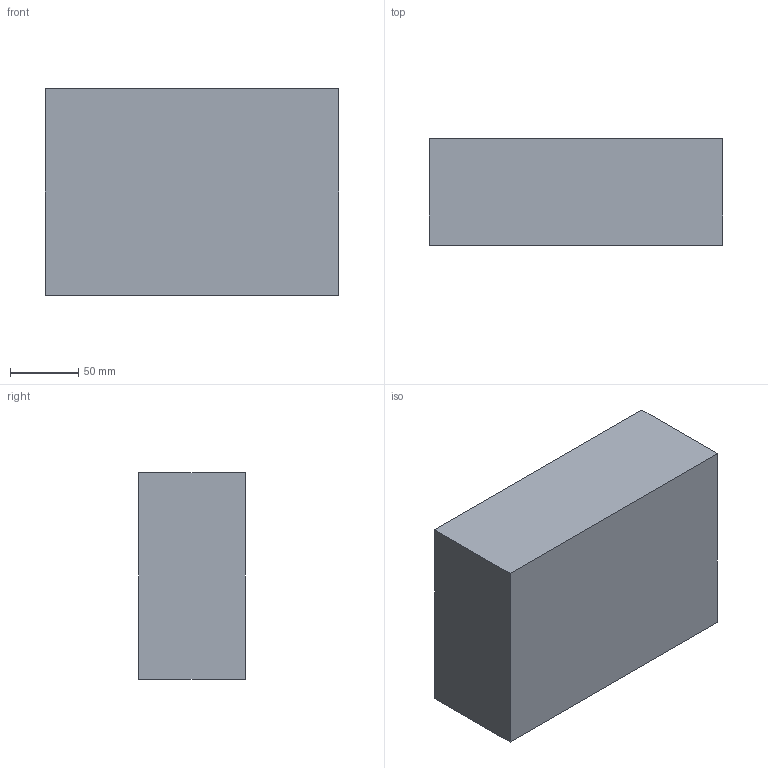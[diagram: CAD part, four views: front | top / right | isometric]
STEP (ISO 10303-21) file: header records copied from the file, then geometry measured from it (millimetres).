
FILE_DESCRIPTION (( 'STEP AP214' ), '1' );
FILE_NAME ('1120E – 933 BOTTOM PID 4-10-2025.STEP', '2025-05-22T00:13:23', ( '' ), ( '' ), 'SwSTEP 2.0', 'SolidWorks 2021', '' );
FILE_SCHEMA (( 'AUTOMOTIVE_DESIGN' ));
Length unit declared in the file: inch
Products named in the file (1): 1120E – 933 BOTTOM PID 4-10-2025
Bounding box: 214.88 x 78.23 x 151.26 mm (x, y, z)
Volume: 1030743.2 mm3; surface area: 160752.9 mm2
Topology: 1 solids, 1 shells, 52 faces, 103 edges, 62 vertices
Faces by surface type: cylinder 24, plane 24, sphere 4
Entity records: 1335 total; most frequent: CARTESIAN_POINT 274, DIRECTION 213, ORIENTED_EDGE 198, EDGE_CURVE 99, AXIS2_PLACEMENT_3D 81, EDGE_LOOP 65, VERTEX_POINT 62, ADVANCED_FACE 52
